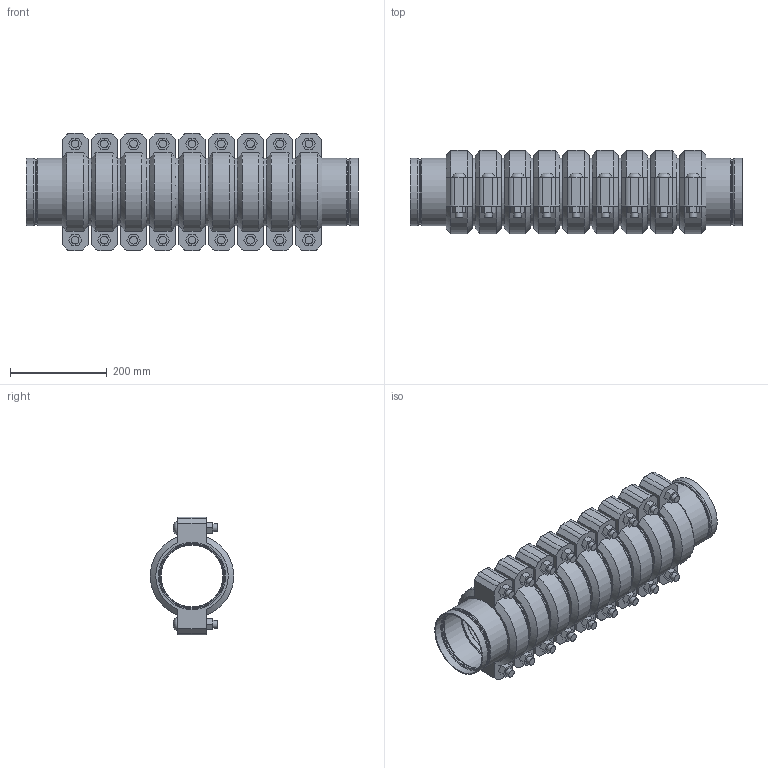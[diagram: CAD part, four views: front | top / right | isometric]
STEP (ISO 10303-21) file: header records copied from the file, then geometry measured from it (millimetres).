
FILE_DESCRIPTION(/* description */ ('VIC STRENGTHIN 100 EXPANSION JOINT 9 COUPLINGS COMPRESSED STYLE E155 (ST1)','CAx-IF Rec.Pracs.---Representation and Presentation of Product Manufacturing Information (PMI)---4.0---2014-10-13'),/* implementation_level */ '2;1');
FILE_NAME(/* name */ 'C:\Users\Vjadhav\AppData\Roaming\Autodesk\ApplicationPlugins\Victaulic.Temp\A705\Victaulic_SS-StrengThin 100_Expansion Joint_Compressed_9 Couplings_Style E155 (ST1)_05.0 (139.7) (125).stp',/* time_stamp */ '2021-07-23T12:37:32+05:00',/* author */ ('kkamble'),/* organization */ ('Victaulic'),/* preprocessor_version */ 'ST-DEVELOPER v17.2',/* originating_system */ 'Autodesk Inventor 2019',/* authorisation */ '');
FILE_SCHEMA (('AP242_MANAGED_MODEL_BASED_3D_ENGINEERING_MIM_LF { 1 0 10303 442 1 1 4 }'));
Length unit declared in the file: inch
Products named in the file (4): E155-05.0 (139.7); E494G-05.0 (139.7); Nipple-05.0 (139.7); 075-05.0 (139.7)
Assembly tree (19 placements, depth 2):
  E155-05.0 (139.7)
    E494G-05.0 (139.7)  x2
    Nipple-05.0 (139.7)  x8
    075-05.0 (139.7)  x9
Bounding box: 687.58 x 172.14 x 243.59 mm (x, y, z)
Volume: 6905811 mm3; surface area: 1521070.9 mm2
Topology: 19 solids, 37 shells, 641 faces, 1605 edges, 1132 vertices
Faces by surface type: plane 366, cylinder 185, cone 40, torus 32, bspline 18
Full cylindrical faces by diameter (mm): 15.875 x36, 17.424 x18, 128.194 x8, 130.505 x2, 131.47 x2, 134.518 x2, 135.484 x18, 135.687 x6, 139.7 x39
Entity records: 3711 total; most frequent: DIRECTION 663, CARTESIAN_POINT 651, ORIENTED_EDGE 536, AXIS2_PLACEMENT_3D 283, EDGE_CURVE 268, VERTEX_POINT 193, CIRCLE 163, EDGE_LOOP 123
